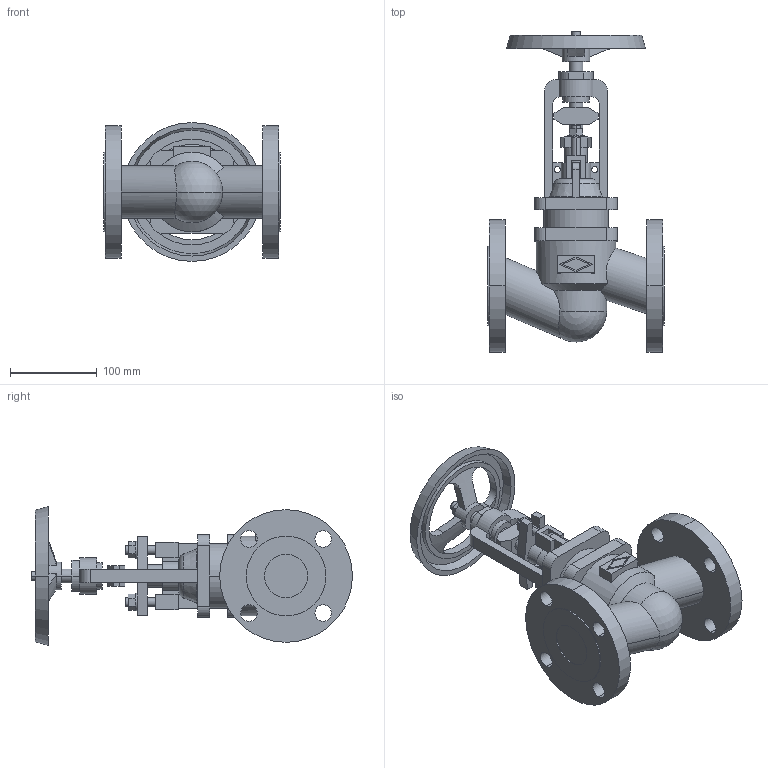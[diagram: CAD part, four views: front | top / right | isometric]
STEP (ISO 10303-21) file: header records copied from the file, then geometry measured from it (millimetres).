
FILE_DESCRIPTION(('OneSpaceDesigner STEP Export'),'2;1');
FILE_NAME('c000004224.stp','2010-04-30T 9:26:15',(''),(''),'OneSpace Designer STEP processor for AP214 (Solid Model)','OneSpace Modeling 15.50B 03-Nov-2007 (C) CoCreate Software GmbH','');
FILE_SCHEMA(('AUTOMOTIVE_DESIGN { 1 0 10303 214 1 1 1 1 }'));
Length unit declared in the file: millimetre
Products named in the file (1): 1
Bounding box: 203 x 369.9 x 160 mm (x, y, z)
Volume: 2216665.5 mm3; surface area: 266919.6 mm2
Topology: 1 solids, 1 shells, 289 faces, 758 edges, 497 vertices
Faces by surface type: plane 148, cylinder 107, cone 24, torus 8, sphere 2
Entity records: 11383 total; most frequent: CARTESIAN_POINT 2325, ORIENTED_EDGE 1512, DIRECTION 1247, EDGE_CURVE 756, VERTEX_POINT 497, VECTOR 423, LINE 423, AXIS2_PLACEMENT_3D 412
